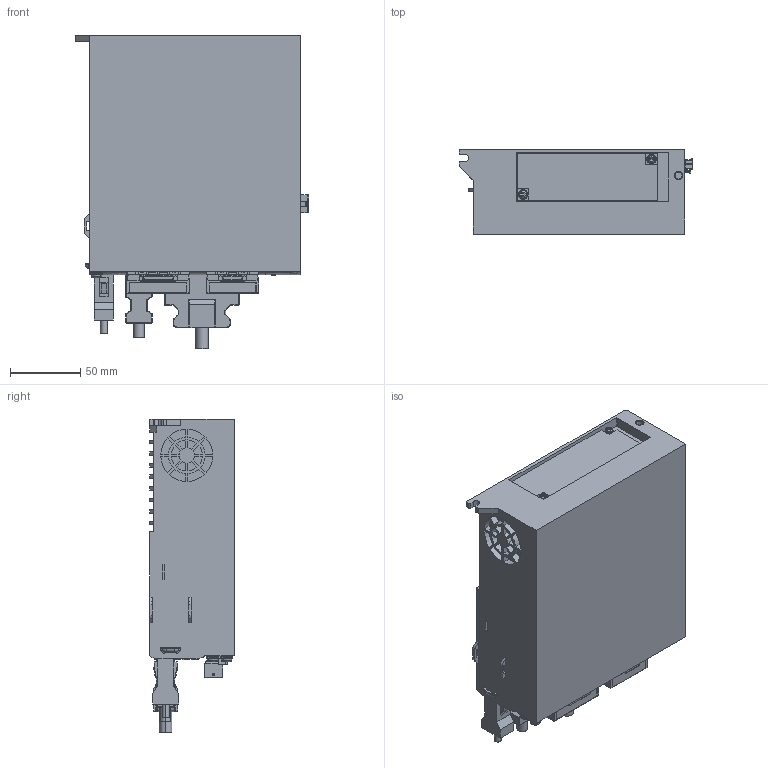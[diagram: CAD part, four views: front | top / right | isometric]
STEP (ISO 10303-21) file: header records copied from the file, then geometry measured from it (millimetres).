
FILE_DESCRIPTION (( 'STEP AP214' ), '1' );
FILE_NAME ('750W-AP.STEP', '2022-11-02T05:33:20', ( '' ), ( '' ), 'SwSTEP 2.0', 'SolidWorks 2014', '' );
FILE_SCHEMA (( 'AUTOMOTIVE_DESIGN' ));
Length unit declared in the file: millimetre
Products named in the file (27): STOM2X04P; 橈勤硉晤鎢ん脣芛; STOG2X4P; 控制回路端子插座-SCI-SOSCN-君昊; M4-H8; plug-t3507505; 750W-AP; MUF-PK10K-X; jack-t3507506; M3-H6; 750WP; jack-t3507505; plug-t3507506
Assembly tree (14 placements, depth 2):
  控制回路端子插座-SCI-SOSCN-君昊
  M4-H8
  750W-AP
    750WP
    M4-H8  x2
    jack-t3507505
    jack-t3507506
    plug-t3507505
    STOM2X04P
    plug-t3507506
    STOG2X4P
    M3-H6  x2
    橈勤硉晤鎢ん脣芛
    控制回路端子插座-SCI-SOSCN-君昊
    MUF-PK10K-X
  MUF-PK10K-X
  jack-t3507505
Bounding box: 165.5 x 60 x 222.6 mm (x, y, z)
Volume: 1397775.7 mm3; surface area: 200472.4 mm2
Topology: 25 solids, 25 shells, 4420 faces, 12135 edges, 7847 vertices
Faces by surface type: plane 3366, cylinder 544, bspline 440, sphere 26, torus 24, cone 20
Entity records: 156198 total; most frequent: CARTESIAN_POINT 48252, ORIENTED_EDGE 23830, DIRECTION 19255, EDGE_CURVE 11915, LINE 9721, VECTOR 9721, VERTEX_POINT 7719, AXIS2_PLACEMENT_3D 4767
